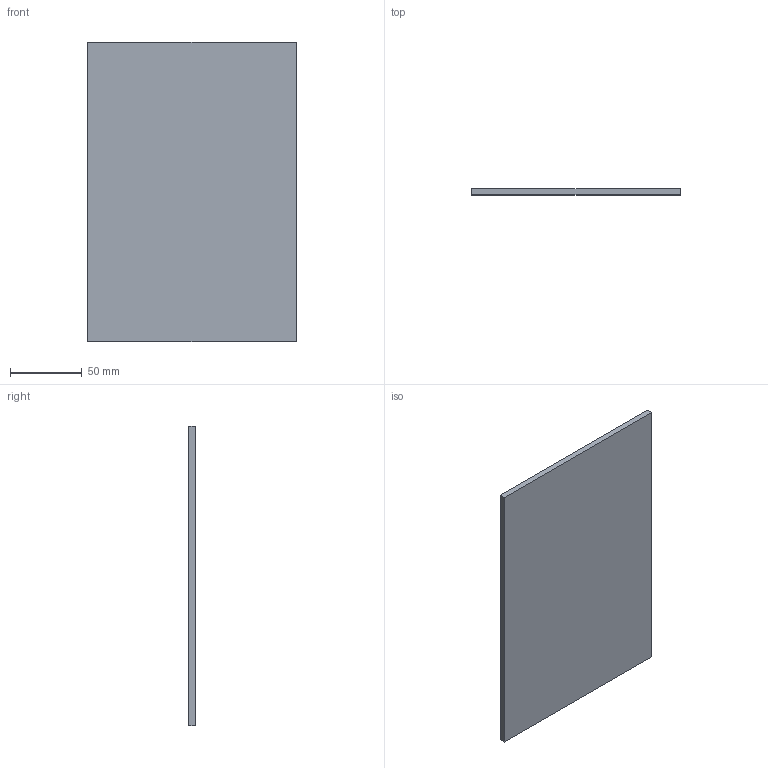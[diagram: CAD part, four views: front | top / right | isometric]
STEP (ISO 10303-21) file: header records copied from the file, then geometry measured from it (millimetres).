
FILE_DESCRIPTION(/* description */ (''),/* implementation_level */ '2;1');
FILE_NAME(/* name */ 'Letter.step',/* time_stamp */ '2026-06-27T03:52:57+02:00',/* author */ (''),/* organization */ (''),/* preprocessor_version */ 'ST-DEVELOPER v20.1',/* originating_system */ 'Autodesk Translation Framework v15.8.0.0',/* authorisation */ '');
FILE_SCHEMA (('AUTOMOTIVE_DESIGN { 1 0 10303 214 3 1 1 }'));
Length unit declared in the file: millimetre
Products named in the file (1): 2026-06-27-03-52-57-602
Bounding box: 145 x 4.3 x 208 mm (x, y, z)
Volume: 129688 mm3; surface area: 63355.8 mm2
Topology: 1 solids, 1 shells, 6 faces, 12 edges, 8 vertices
Faces by surface type: plane 6
Entity records: 178 total; most frequent: CARTESIAN_POINT 27, DIRECTION 26, ORIENTED_EDGE 24, LINE 12, VECTOR 12, EDGE_CURVE 12, VERTEX_POINT 8, AXIS2_PLACEMENT_3D 7
